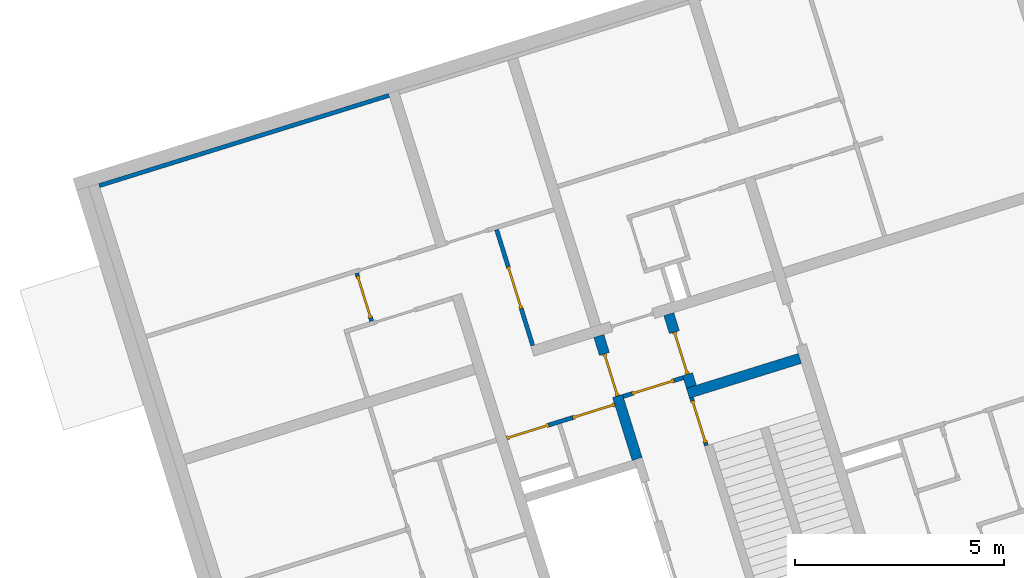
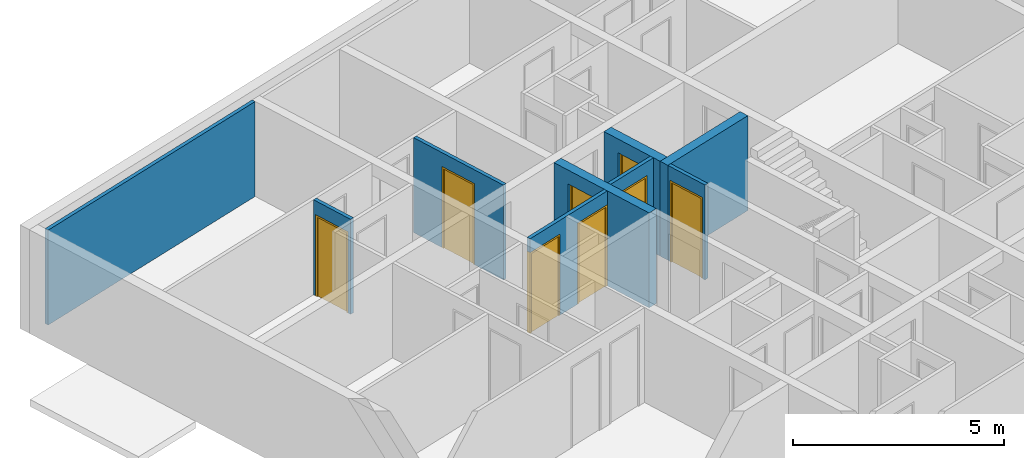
# One storey, part 5 of 9: 9 walls, 8 doors, 10 openings.
"""IFC4 building model written with IfcOpenShell, lengths in metres."""

import ifcopenshell
import ifcopenshell.guid

model = None  # the IFC model being written
_history = None  # IfcOwnerHistory: only IFC2X3 demands one
_inside = {}  # id of a spatial element -> (the spatial element, [elements in it])
_under = {}  # id of a project, library or spatial element -> (it, [spatial elements below it])
_declared = {}  # id of a project -> (the project, [libraries it declares])
_typed = {}  # id of a type object -> (the type object, [elements of that type])
_made_of = {}  # id of a material, layer set ... -> (it, [elements and type objects made of it])


def new_model(schema):
    """Start an empty IFC model of exactly this schema.

    Asked for "IFC4X3", IfcOpenShell would pick the latest addendum, in which some entities
    have other attributes; the version numbers below select the first issue.
    IFC2X3 requires an IfcOwnerHistory on every rooted entity: one is made here for all.
    """
    global model, _history
    if schema == "IFC4X3":
        model = ifcopenshell.file(schema_version=(4, 3, 0, 0))
    else:
        model = ifcopenshell.file(schema=schema)
    _inside.clear()
    _under.clear()
    _declared.clear()
    _typed.clear()
    _made_of.clear()
    _history = None
    if model.schema == "IFC2X3":
        org = make("IfcOrganization", Name="unknown")
        user = make(
            "IfcPersonAndOrganization",
            ThePerson=make("IfcPerson", FamilyName="unknown"),
            TheOrganization=org,
        )
        app = make(
            "IfcApplication",
            ApplicationDeveloper=org,
            Version="unknown",
            ApplicationFullName="unknown",
            ApplicationIdentifier="unknown",
        )
        _history = make(
            "IfcOwnerHistory",
            OwningUser=user,
            OwningApplication=app,
            ChangeAction="ADDED",
            CreationDate=0,
        )
    return model


def make(cls, **values):
    """One entity of the class cls with the attributes given. An attribute that is None is left unset."""
    return model.create_entity(
        cls, **{name: value for name, value in values.items() if value is not None}
    )


def entity(cls, *values):
    """Any entity or typed value of the class cls, its attributes in the order of the schema. None: left unset."""
    e = model.create_entity(cls)
    for i, value in enumerate(values):
        if value is not None:
            e[i] = value
    return e


def rooted(cls, **values):
    """An entity with a GlobalId (a new one), such as an element, a storey or a relation."""
    return make(cls, GlobalId=ifcopenshell.guid.new(), OwnerHistory=_history, **values)


def si_unit(unit_type, name, prefix=None):
    """IfcSIUnit, for example si_unit("LENGTHUNIT", "METRE", prefix="MILLI")."""
    return make("IfcSIUnit", UnitType=unit_type, Prefix=prefix, Name=name)


def converted_unit(unit_type, name, factor, base, dimensions=None, offset=None):
    """IfcConversionBasedUnit, such as the inch: factor (a typed value) times the base unit."""
    return make(
        "IfcConversionBasedUnit"
        if offset is None
        else "IfcConversionBasedUnitWithOffset",
        ConversionOffset=offset,
        Dimensions=None
        if dimensions is None
        else entity("IfcDimensionalExponents", *dimensions),
        UnitType=unit_type,
        Name=name,
        ConversionFactor=make(
            "IfcMeasureWithUnit", ValueComponent=factor, UnitComponent=base
        ),
    )


def assignment(units):
    """IfcUnitAssignment: the units of a project."""
    return None if units is None else make("IfcUnitAssignment", Units=units)


def point(xyz):
    """IfcCartesianPoint."""
    return None if xyz is None else make("IfcCartesianPoint", Coordinates=xyz)


def direction(xyz):
    """IfcDirection."""
    return None if xyz is None else make("IfcDirection", DirectionRatios=xyz)


def frame(location, z_axis=None, x_axis=None):
    """IfcAxis2Placement3D, a coordinate frame: its origin and axes. An axis left out is left unset."""
    return make(
        "IfcAxis2Placement3D",
        Location=point(location),
        Axis=direction(z_axis),
        RefDirection=direction(x_axis),
    )


def origin():
    """The frame at (0, 0, 0) with its axes left unset."""
    return frame((0.0, 0.0, 0.0))


def place(relative_to, where):
    """IfcLocalPlacement: puts the frame where relative to a parent placement (None: the world)."""
    return make(
        "IfcLocalPlacement", PlacementRelTo=relative_to, RelativePlacement=where
    )


def context(
    kind, dimensions, precision=None, world=None, true_north=None, identifier=None
):
    """IfcGeometricRepresentationContext, for example the 3D "Model" context."""
    return make(
        "IfcGeometricRepresentationContext",
        ContextIdentifier=identifier,
        ContextType=kind,
        CoordinateSpaceDimension=dimensions,
        Precision=precision,
        WorldCoordinateSystem=world,
        TrueNorth=true_north,
    )


def subcontext(parent, identifier, kind, view, scale=None):
    """IfcGeometricRepresentationSubContext, for example "Body" below "Model"."""
    return make(
        "IfcGeometricRepresentationSubContext",
        ContextIdentifier=identifier,
        ContextType=kind,
        ParentContext=parent,
        TargetScale=scale,
        TargetView=view,
    )


def project(units=None, contexts=None):
    """IfcProject with its units and contexts."""
    return rooted(
        "IfcProject",
        Name="project",
        RepresentationContexts=contexts,
        UnitsInContext=assignment(units),
    )


def spatial(cls, under=None, at=None, **own):
    """A site, building, storey or space (cls), placed at a placement, below another one or the project."""
    s = rooted(cls, ObjectPlacement=at, **own)
    if under is not None:
        _under.setdefault(under.id(), (under, []))[1].append(s)
    return s


def point_list(points):
    """IfcCartesianPointList2D or 3D."""
    cls = (
        "IfcCartesianPointList2D" if len(points[0]) == 2 else "IfcCartesianPointList3D"
    )
    return make(cls, CoordList=points)


def indexed_curve(points, segments=None, self_intersect=None):
    """IfcIndexedPolyCurve: lines and arcs through numbered points (the first is 1)."""
    return make(
        "IfcIndexedPolyCurve",
        Points=point_list(points),
        Segments=segments,
        SelfIntersect=self_intersect,
    )


def outline(outer, holes=None, kind="AREA"):
    """IfcArbitraryClosedProfileDef: a profile drawn as a closed curve; with holes, ...WithVoids."""
    if holes is None:
        return make("IfcArbitraryClosedProfileDef", ProfileType=kind, OuterCurve=outer)
    return make(
        "IfcArbitraryProfileDefWithVoids",
        ProfileType=kind,
        OuterCurve=outer,
        InnerCurves=holes,
    )


def extrude(swept, where, along, depth):
    """IfcExtrudedAreaSolid: the profile swept, set in the frame where, extruded along a direction by depth."""
    return make(
        "IfcExtrudedAreaSolid",
        SweptArea=swept,
        Position=where,
        ExtrudedDirection=direction(along),
        Depth=depth,
    )


def polygons(points, faces, closed=None, point_numbers=None):
    """IfcPolygonalFaceSet: a face is its outer loop, then its inner loops; points numbered from 1."""
    made = []
    for loops in faces:
        if len(loops) == 1:
            made.append(make("IfcIndexedPolygonalFace", CoordIndex=loops[0]))
        else:
            made.append(
                make(
                    "IfcIndexedPolygonalFaceWithVoids",
                    CoordIndex=loops[0],
                    InnerCoordIndices=loops[1:],
                )
            )
    return make(
        "IfcPolygonalFaceSet",
        Coordinates=point_list(points),
        Closed=closed,
        Faces=made,
        PnIndex=point_numbers,
    )


def shape(context_of_items, identifier, shape_type, items):
    """IfcShapeRepresentation: the items that make up one representation, for example the "Body"."""
    return make(
        "IfcShapeRepresentation",
        ContextOfItems=context_of_items,
        RepresentationIdentifier=identifier,
        RepresentationType=shape_type,
        Items=items,
    )


def source(mapping_origin, context_of_items, identifier, shape_type, items):
    """IfcRepresentationMap: a shape defined once, which mapped items show again and again."""
    return make(
        "IfcRepresentationMap",
        MappingOrigin=mapping_origin,
        MappedRepresentation=shape(context_of_items, identifier, shape_type, items),
    )


def transform(
    local_origin,
    x_axis=None,
    y_axis=None,
    z_axis=None,
    scale=None,
    scale2=None,
    scale3=None,
    uniform=True,
):
    """IfcCartesianTransformationOperator3D, or its non-uniform kind. x_axis, y_axis, z_axis: its Axis1, 2, 3."""
    if uniform:
        return make(
            "IfcCartesianTransformationOperator3D",
            Axis1=direction(x_axis),
            Axis2=direction(y_axis),
            LocalOrigin=point(local_origin),
            Scale=scale,
            Axis3=direction(z_axis),
        )
    return make(
        "IfcCartesianTransformationOperator3DnonUniform",
        Axis1=direction(x_axis),
        Axis2=direction(y_axis),
        LocalOrigin=point(local_origin),
        Scale=scale,
        Axis3=direction(z_axis),
        Scale2=scale2,
        Scale3=scale3,
    )


def mapped(mapping_source, mapping_target):
    """IfcMappedItem: shows the shape of a source again, moved by a transform."""
    return make(
        "IfcMappedItem", MappingSource=mapping_source, MappingTarget=mapping_target
    )


def material(Name=None, Category=None):
    """IfcMaterial."""
    return make("IfcMaterial", Name=Name, Category=Category)


def constituent(of_material, Name=None, Category=None, fraction=None):
    """IfcMaterialConstituent: one of the materials an element consists of."""
    return make(
        "IfcMaterialConstituent",
        Name=Name,
        Material=of_material,
        Fraction=fraction,
        Category=Category,
    )


def constituent_set(constituents=None, Name=None):
    """IfcMaterialConstituentSet."""
    return make(
        "IfcMaterialConstituentSet", Name=Name, MaterialConstituents=constituents
    )


def made_of(thing, what):
    """Note that an element or type object is made of a material, layer set ...; save() writes the relation."""
    if what is not None:
        _made_of.setdefault(what.id(), (what, []))[1].append(thing)
    return thing


def type_object(cls, material=None, **own):
    """A type object (cls), such as IfcWallType, which elements share."""
    return made_of(rooted(cls, **own), material)


def type_shapes(of_type, sources):
    """Give a type object the sources (RepresentationMaps) that its elements show as mapped items."""
    of_type.RepresentationMaps = sources


def element(
    cls,
    number,
    at=None,
    inside=None,
    cuts=None,
    type_object=None,
    material=None,
    context=None,
    identifier="Body",
    shape_type=None,
    held_by="IfcProductDefinitionShape",
    body=None,
    shapes=None,
    **own,
):
    """One element of the class cls, such as IfcWall. Its Tag is "e" and its number.

    at: its placement. inside: the storey or other place that contains it. cuts: it is an
    opening in that element (IfcRelVoidsElement). A single representation is given by context,
    identifier, shape_type and body (its items); several are given by shapes. held_by: the class
    of the entity that holds the representations. save() writes the other relations.
    """
    e = rooted(cls, Tag="e%d" % number, ObjectPlacement=at, **own)
    if body is not None:
        shapes = [shape(context, identifier, shape_type, body)]
    if shapes is not None:
        e.Representation = make(held_by, Representations=shapes)
    if inside is not None:
        _inside.setdefault(inside.id(), (inside, []))[1].append(e)
    if cuts is not None:
        rooted(
            "IfcRelVoidsElement", RelatingBuildingElement=cuts, RelatedOpeningElement=e
        )
    if type_object is not None:
        _typed.setdefault(type_object.id(), (type_object, []))[1].append(e)
    return made_of(e, material)


def fill(opening, filler):
    """IfcRelFillsElement: the door or window that sits in an opening."""
    return rooted(
        "IfcRelFillsElement",
        RelatingOpeningElement=opening,
        RelatedBuildingElement=filler,
    )


def aggregate(whole, parts):
    """IfcRelAggregates: a whole, such as a stair, and the parts it consists of."""
    return rooted("IfcRelAggregates", RelatingObject=whole, RelatedObjects=parts)


def save(model, path):
    """Write the relations noted so far, then the file.

    IfcRelAggregates (storeys below a building ...), IfcRelContainedInSpatialStructure (elements
    in a storey), IfcRelDefinesByType, IfcRelAssociatesMaterial and IfcRelDeclares: one each for
    every whole, place, type object, material and project.
    """
    for whole, parts in _under.values():
        aggregate(whole, parts)
    for where, things in _inside.values():
        rooted(
            "IfcRelContainedInSpatialStructure",
            RelatedElements=things,
            RelatingStructure=where,
        )
    for kind, things in _typed.values():
        rooted("IfcRelDefinesByType", RelatedObjects=things, RelatingType=kind)
    for what, things in _made_of.values():
        rooted("IfcRelAssociatesMaterial", RelatedObjects=things, RelatingMaterial=what)
    for by, libraries in _declared.values():
        rooted("IfcRelDeclares", RelatingContext=by, RelatedDefinitions=libraries)
    model.write(path)


model = new_model("IFC4")

# Units and contexts
model_context = context("Model", 3, precision=1e-05, world=origin(), true_north=direction((6.12323399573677e-17, 1.0)))
body_context = subcontext(model_context, "Body", "Model", "MODEL_VIEW")
ifc_project = project(units=[si_unit("LENGTHUNIT", "METRE"), si_unit("AREAUNIT", "SQUARE_METRE"), si_unit("VOLUMEUNIT", "CUBIC_METRE"), converted_unit("PLANEANGLEUNIT", "DEGREE", entity("IfcPlaneAngleMeasure", 0.0174532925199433), si_unit("PLANEANGLEUNIT", "RADIAN"), dimensions=[0, 0, 0, 0, 0, 0, 0])], contexts=[model_context])

# Site, building, storey
site_placement = place(None, frame((13.1347999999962, 11.9886000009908, 0.0), z_axis=(0.0, 0.0, 1.0), x_axis=(0.954770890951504, 0.297342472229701, 0.0)))
site = spatial("IfcSite", under=ifc_project, at=site_placement, Name="Schiehaven", CompositionType="ELEMENT")
building_placement = place(site_placement, origin())
building = spatial("IfcBuilding", under=site, at=building_placement, Name="VORM huis", CompositionType="ELEMENT")
storey_placement = place(building_placement, frame((0.0, 0.0, 9.9)))
storey = spatial("IfcBuildingStorey", under=building, at=storey_placement, Name="03 derde verdieping", CompositionType="ELEMENT", Elevation=9.9)

# Walls
ifc_material_1 = material(Name="ntb_ntb_ntb", Category="Miscellaneous")
wall_type_1 = type_object("IfcWallType", Name="Basic Wall:21_WA_gevel_binnenspouwwand 100mm_gen", PredefinedType="STANDARD")
wall_1_placement = place(storey_placement, frame((5.12500000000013, 29.0500000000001, 0.0)))
element("IfcWall", 1, at=wall_1_placement, inside=storey, type_object=wall_type_1, material=ifc_material_1, Name="Binnenspouwblad", ObjectType="Wand", PredefinedType="NOTDEFINED", context=body_context, shape_type="SweptSolid", body=[
    extrude(outline(indexed_curve([(7.24999999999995, 0.0500000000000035), (-1.62265042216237e-16, 0.0500000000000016), (1.62265042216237e-16, -0.0500000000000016), (7.24999999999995, -0.0499999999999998), (7.24999999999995, 0.0500000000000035)], self_intersect=False)), origin(), (0.0, 0.0, 1.0), 2.75),
])
wall_type_2 = type_object("IfcWallType", Name="Basic Wall:22_WA_afbouw_binnenwand 250mm_gen", PredefinedType="STANDARD")
wall_2_placement = place(storey_placement, frame((19.8750000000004, 20.1349999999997, 0.0), z_axis=(0.0, 0.0, 1.0), x_axis=(-1.0, 0.0, 0.0)))
element("IfcWall", 2, at=wall_2_placement, inside=storey, type_object=wall_type_2, material=ifc_material_1, Name="Binnenwand", ObjectType="Wand", PredefinedType="NOTDEFINED", context=body_context, shape_type="SweptSolid", body=[
    extrude(outline(indexed_curve([(2.80000000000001, 0.125000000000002), (2.21820971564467e-15, 0.125000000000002), (2.1132588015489e-15, -0.125000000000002), (2.80000000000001, -0.125000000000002), (2.80000000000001, 0.125000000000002)], self_intersect=False)), origin(), (0.0, 0.0, 1.0), 2.75),
])

# Wall, opening, door
wall_3_placement = place(storey_placement, frame((17.2000000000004, 20.2599999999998, 0.0), z_axis=(0.0, 0.0, 1.0), x_axis=(0.0, 1.0, 0.0)))
wall_3 = element("IfcWall", 3, at=wall_3_placement, inside=storey, type_object=wall_type_2, material=ifc_material_1, Name="Binnenwand", ObjectType="Wand", PredefinedType="NOTDEFINED", context=body_context, shape_type="Tessellation", body=[
    polygons([(0.0, -0.124999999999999, -2.16573425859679e-15), (0.315000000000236, -0.124999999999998, -2.16573425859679e-15), (0.315000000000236, -0.124999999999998, 2.34999999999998), (1.36500000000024, -0.124999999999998, 2.34999999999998), (1.36500000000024, -0.124999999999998, -2.16573425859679e-15), (1.81500000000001, -0.124999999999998, -2.16573425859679e-15), (1.81500000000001, -0.124999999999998, 2.75), (0.0, -0.124999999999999, 2.75), (0.315000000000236, 0.125000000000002, 2.34999999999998), (0.315000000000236, 0.125000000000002, -2.16573425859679e-15), (0.215000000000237, 0.125000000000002, -2.16573425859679e-15), (0.0, 0.125, -2.16573425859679e-15), (0.0, 0.125, 2.75), (0.215000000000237, 0.125000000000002, 2.75), (0.315000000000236, 0.125000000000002, 2.75), (1.81500000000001, 0.124999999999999, 2.75), (1.81500000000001, 0.124999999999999, -2.16573425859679e-15), (1.36500000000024, 0.125000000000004, -2.16573425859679e-15), (1.36500000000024, 0.125000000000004, 2.34999999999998)], [[[1, 2, 3, 4, 5, 6, 7, 8]], [[9, 10, 11, 12, 13, 14, 15, 16, 17, 18, 19]], [[12, 11, 10, 2, 1]], [[7, 6, 17, 16]], [[8, 7, 16, 15, 14, 13]], [[5, 4, 19, 18]], [[3, 2, 10, 9]], [[4, 3, 9, 19]], [[1, 8, 13, 12]], [[18, 17, 6, 5]]], closed=True),
])
opening_1_placement = place(wall_3_placement, frame((0.315000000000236, -0.125000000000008, 0.0)))
opening_1 = element("IfcOpeningElement", 4, at=opening_1_placement, cuts=wall_3, Name="Woningtoegangsdeur", PredefinedType="OPENING", context=body_context, shape_type="SweptSolid", body=[
    extrude(outline(indexed_curve([(2.34999999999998, 1.05), (0.0, 1.05), (0.0, 0.0), (2.34999999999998, 0.0), (2.34999999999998, 1.05)], self_intersect=False)), frame((0.0, 0.0, 0.0), z_axis=(0.0, 1.0, 0.0), x_axis=(0.0, 0.0, 1.0)), (0.0, 0.0, 1.0), 0.25),
])
ifc_material_2 = material(Name="PD_a_binnenwandopeningen", Category="Miscellaneous")
ifc_constituent_1 = constituent(ifc_material_2, Name="PD_a_binnenwandopeningen", Category="Miscellaneous")
ifc_material_3 = material(Name="metaal_aluminium_ntb", Category="Miscellaneous")
ifc_constituent_2 = constituent(ifc_material_3, Name="metaal_aluminium_ntb", Category="Miscellaneous")
ifc_constituent_set_1 = constituent_set(constituents=[ifc_constituent_1, ifc_constituent_2])
door_type_1 = type_object("IfcDoorType", Name="32_DO_binnendeur enkel:woningtoegangsdeur", OperationType="REVOLVING", PredefinedType="DOOR")
shared_shape_1 = source(origin(), body_context, "Body", "SweptSolid", [
    extrude(outline(indexed_curve([(-1.16249999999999, -0.525000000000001), (1.18749999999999, -0.525), (1.18749999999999, 0.525000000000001), (-1.16249999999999, 0.525000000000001), (-1.16249999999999, 0.475), (1.13749999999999, 0.475), (1.13749999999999, -0.475), (-1.16249999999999, -0.475), (-1.16249999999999, -0.525000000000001)], self_intersect=False)), frame((0.525000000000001, 0.0749999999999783, 1.16249999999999), z_axis=(0.0, 1.0, 0.0), x_axis=(0.0, 0.0, 1.0)), (0.0, 0.0, 1.0), 0.1),
    extrude(outline(indexed_curve([(-0.025, -0.475), (0.025, -0.475), (0.025, 0.475), (-0.025, 0.475), (-0.025, -0.475)], self_intersect=False)), frame((0.525000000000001, 0.12499999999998, 0.0), z_axis=(0.0, 0.0, 1.0), x_axis=(0.0, 1.0, 0.0)), (0.0, 0.0, 1.0), 2.29999999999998),
])
type_shapes(door_type_1, [shared_shape_1])
door_1_placement = place(opening_1_placement, origin())
door_1 = element("IfcDoor", 5, at=door_1_placement, inside=storey, type_object=door_type_1, material=ifc_constituent_set_1, Name="Woningtoegangsdeur", ObjectType="Deur", OperationType="REVOLVING", OverallHeight=2.34999999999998, OverallWidth=1.05, PredefinedType="DOOR", context=body_context, shape_type="MappedRepresentation", body=[
    mapped(shared_shape_1, transform((0.0, 0.0, 0.0), scale=1.0)),
])
fill(opening_1, door_1)

wall_4_placement = place(storey_placement, frame((15.4500000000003, 19.0, 0.0), z_axis=(0.0, 0.0, 1.0), x_axis=(0.0, 1.0, 0.0)))
wall_4 = element("IfcWall", 6, at=wall_4_placement, inside=storey, type_object=wall_type_2, material=ifc_material_1, Name="Binnenwand", ObjectType="Wand", PredefinedType="NOTDEFINED", context=body_context, shape_type="Tessellation", body=[
    polygons([(2.62500000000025, -0.124999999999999, 2.34999999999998), (2.62500000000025, -0.124999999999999, -2.16573425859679e-15), (3.075, -0.124999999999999, -2.16573425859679e-15), (3.075, -0.124999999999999, 2.75), (1.57500000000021, -0.124999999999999, 2.75), (1.47500000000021, -0.124999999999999, 2.75), (4.33146851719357e-15, -0.125, 2.75), (4.33146851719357e-15, -0.125, -2.16573425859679e-15), (1.47500000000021, -0.124999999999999, -2.16573425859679e-15), (1.57500000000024, -0.124999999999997, -2.16573425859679e-15), (1.57500000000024, -0.124999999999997, 2.34999999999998), (3.075, 0.125, -2.16573425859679e-15), (2.62500000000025, 0.125000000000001, -2.16573425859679e-15), (2.62500000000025, 0.125000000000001, 2.34999999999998), (1.57500000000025, 0.125000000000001, 2.34999999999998), (1.57500000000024, 0.125000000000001, -2.16573425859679e-15), (0.0, 0.125, -2.16573425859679e-15), (0.0, 0.125, 2.75), (3.075, 0.125, 2.75)], [[[1, 2, 3, 4, 5, 6, 7, 8, 9, 10, 11]], [[12, 13, 14, 15, 16, 17, 18, 19]], [[10, 9, 8, 17, 16]], [[4, 3, 12, 19]], [[7, 6, 5, 4, 19, 18]], [[8, 7, 18, 17]], [[16, 15, 11, 10]], [[14, 13, 2, 1]], [[15, 14, 1, 11]], [[3, 2, 13, 12]]], closed=True),
])
opening_2_placement = place(wall_4_placement, frame((2.62500000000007, 0.124999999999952, 0.0)))
opening_2 = element("IfcOpeningElement", 7, at=opening_2_placement, cuts=wall_4, Name="Woningtoegangsdeur", PredefinedType="OPENING", context=body_context, shape_type="SweptSolid", body=[
    extrude(outline(indexed_curve([(2.34999999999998, 1.05), (0.0, 1.05), (0.0, -4.02144990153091e-29), (2.34999999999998, -4.02144990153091e-29), (2.34999999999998, 1.05)], self_intersect=False)), frame((0.0, 0.0, 0.0), z_axis=(0.0, -1.0, 0.0), x_axis=(0.0, 0.0, 1.0)), (0.0, 0.0, 1.0), 0.25),
])
ifc_constituent_3 = constituent(ifc_material_2, Name="PD_a_binnenwandopeningen", Category="Miscellaneous")
ifc_constituent_4 = constituent(ifc_material_3, Name="metaal_aluminium_ntb", Category="Miscellaneous")
ifc_constituent_set_2 = constituent_set(constituents=[ifc_constituent_3, ifc_constituent_4])
door_2_placement = place(opening_2_placement, frame((0.0, 0.0, 0.0), z_axis=(0.0, 0.0, 1.0), x_axis=(-1.0, 0.0, 0.0)))
door_2 = element("IfcDoor", 8, at=door_2_placement, inside=storey, type_object=door_type_1, material=ifc_constituent_set_2, Name="Woningtoegangsdeur", ObjectType="Deur", OperationType="REVOLVING", OverallHeight=2.34999999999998, OverallWidth=1.05, PredefinedType="DOOR", context=body_context, shape_type="MappedRepresentation", body=[
    mapped(shared_shape_1, transform((0.0, 0.0, 0.0), scale=1.0)),
])
fill(opening_2, door_2)

wall_type_3 = type_object("IfcWallType", Name="Basic Wall:22_WA_afbouw_binnenwand 100mm_gen", PredefinedType="STANDARD")
wall_5_placement = place(storey_placement, frame((17.1250000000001, 20.0099999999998, 0.0), z_axis=(0.0, 0.0, 1.0), x_axis=(0.0, -1.0, 0.0)))
wall_5 = element("IfcWall", 9, at=wall_5_placement, inside=storey, type_object=wall_type_3, material=ifc_material_1, Name="Binnenwand", ObjectType="Wand", PredefinedType="NOTDEFINED", context=body_context, shape_type="Tessellation", body=[
    polygons([(1.19999999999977, -0.050000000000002, -2.16573425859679e-15), (1.19999999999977, -0.050000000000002, 2.75), (0.0, -0.0500000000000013, 2.75), (0.0, -0.0500000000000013, -2.16573425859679e-15), (0.074999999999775, -0.0500000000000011, -2.16573425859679e-15), (0.074999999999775, -0.0500000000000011, 2.34999999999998), (1.12499999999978, -0.0500000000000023, 2.34999999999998), (1.12499999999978, -0.0500000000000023, -2.16573425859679e-15), (1.19999999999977, 0.0499999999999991, 2.75), (1.19999999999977, 0.0499999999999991, -2.16573425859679e-15), (1.12499999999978, 0.0499999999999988, -2.16573425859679e-15), (1.12499999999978, 0.0499999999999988, 2.34999999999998), (0.074999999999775, 0.0499999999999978, 2.34999999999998), (0.074999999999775, 0.0499999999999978, -2.16573425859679e-15), (0.0, 0.0499999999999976, -2.16573425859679e-15), (0.0, 0.0499999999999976, 2.75)], [[[1, 2, 3, 4, 5, 6, 7, 8]], [[9, 10, 11, 12, 13, 14, 15, 16]], [[4, 15, 14, 5]], [[2, 1, 10, 9]], [[3, 2, 9, 16]], [[13, 6, 5, 14]], [[6, 13, 12, 7]], [[7, 12, 11, 8]], [[4, 3, 16, 15]], [[10, 1, 8, 11]]], closed=True),
])
opening_3_placement = place(wall_5_placement, frame((0.074999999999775, -0.0500000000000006, 0.0)))
opening_3 = element("IfcOpeningElement", 10, at=opening_3_placement, cuts=wall_5, Name="Vluchtdeur", PredefinedType="OPENING", context=body_context, shape_type="SweptSolid", body=[
    extrude(outline(indexed_curve([(2.34999999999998, 1.05), (0.0, 1.05), (0.0, -3.51974282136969e-30), (2.34999999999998, -3.51974282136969e-30), (2.34999999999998, 1.05)], self_intersect=False)), frame((0.0, 0.0, 0.0), z_axis=(0.0, 1.0, 0.0), x_axis=(0.0, 0.0, 1.0)), (0.0, 0.0, 1.0), 0.1),
])
ifc_constituent_5 = constituent(ifc_material_2, Name="PD_a_binnenwandopeningen", Category="Miscellaneous")
ifc_constituent_6 = constituent(ifc_material_3, Name="metaal_aluminium_ntb", Category="Miscellaneous")
ifc_constituent_set_3 = constituent_set(constituents=[ifc_constituent_5, ifc_constituent_6])
door_type_2 = type_object("IfcDoorType", Name="32_DO_binnendeur enkel:binnendeur zelfsluitend 30min", OperationType="NOTDEFINED", PredefinedType="DOOR")
shared_shape_2 = source(origin(), body_context, "Body", "SweptSolid", [
    extrude(outline(indexed_curve([(-1.16249999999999, -0.525000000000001), (1.18749999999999, -0.525), (1.18749999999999, 0.525), (-1.16249999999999, 0.525), (-1.16249999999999, 0.475), (1.13749999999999, 0.475), (1.13749999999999, -0.475), (-1.16249999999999, -0.475), (-1.16249999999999, -0.525000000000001)], self_intersect=False)), frame((0.525000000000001, 0.0, 1.16249999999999), z_axis=(0.0, 1.0, 0.0), x_axis=(0.0, 0.0, 1.0)), (0.0, 0.0, 1.0), 0.1),
    extrude(outline(indexed_curve([(-0.025, -0.475), (0.025, -0.475), (0.025, 0.475), (-0.025, 0.475), (-0.025, -0.475)], self_intersect=False)), frame((0.525000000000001, 0.0499999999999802, 0.0), z_axis=(0.0, 0.0, 1.0), x_axis=(0.0, 1.0, 0.0)), (0.0, 0.0, 1.0), 2.29999999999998),
])
type_shapes(door_type_2, [shared_shape_2])
door_3_placement = place(opening_3_placement, origin())
door_3 = element("IfcDoor", 11, at=door_3_placement, inside=storey, type_object=door_type_2, material=ifc_constituent_set_3, Name="Vluchtdeur", ObjectType="Deur", OperationType="NOTDEFINED", OverallHeight=2.34999999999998, OverallWidth=1.05, PredefinedType="DOOR", context=body_context, shape_type="MappedRepresentation", body=[
    mapped(shared_shape_2, transform((0.0, 0.0, 0.0), scale=1.0)),
])
fill(opening_3, door_3)

wall_6_placement = place(storey_placement, frame((17.0750000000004, 20.525, 0.0), z_axis=(0.0, 0.0, 1.0), x_axis=(-1.0, 0.0, 0.0)))
wall_6 = element("IfcWall", 12, at=wall_6_placement, inside=storey, type_object=wall_type_3, material=ifc_material_1, Name="Binnenwand", ObjectType="Wand", PredefinedType="NOTDEFINED", context=body_context, shape_type="Tessellation", body=[
    polygons([(1.50000000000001, -0.0499999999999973, 2.75), (7.85851977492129e-16, -0.0499999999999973, 2.75), (7.85851977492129e-16, -0.0499999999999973, 2.34999999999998), (7.85851977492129e-16, -0.0499999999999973, -2.16573425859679e-15), (0.22500000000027, -0.0499999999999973, -2.16573425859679e-15), (0.225000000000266, -0.0499999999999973, 2.34999999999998), (1.27500000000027, -0.0499999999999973, 2.34999999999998), (1.27500000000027, -0.0499999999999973, -2.16573425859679e-15), (1.50000000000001, -0.0499999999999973, -2.16573425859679e-15), (1.5, -0.0499999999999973, 2.34999999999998), (3.01092306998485e-15, 0.0500000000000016, 2.75), (1.50000000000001, 0.0500000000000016, 2.75), (1.50000000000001, 0.0500000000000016, -2.16573425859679e-15), (1.27500000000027, 0.0500000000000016, -2.16573425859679e-15), (1.27500000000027, 0.0500000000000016, 2.34999999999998), (0.225000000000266, 0.0500000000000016, 2.34999999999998), (0.22500000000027, 0.0500000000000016, -2.16573425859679e-15), (3.01092306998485e-15, 0.0500000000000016, -2.16573425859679e-15)], [[[1, 2, 3, 4, 5, 6, 7, 8, 9, 10]], [[11, 12, 13, 14, 15, 16, 17, 18]], [[4, 18, 17, 5]], [[2, 1, 12, 11]], [[16, 6, 5, 17]], [[6, 16, 15, 7]], [[7, 15, 14, 8]], [[1, 10, 9, 13, 12]], [[4, 3, 2, 11, 18]], [[13, 9, 8, 14]]], closed=True),
])
opening_4_placement = place(wall_6_placement, frame((0.225000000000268, -0.0500000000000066, 0.0)))
opening_4 = element("IfcOpeningElement", 13, at=opening_4_placement, cuts=wall_6, Name="Vluchtdeur", PredefinedType="OPENING", context=body_context, shape_type="SweptSolid", body=[
    extrude(outline(indexed_curve([(2.34999999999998, 1.05), (0.0, 1.05), (0.0, 1.35358391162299e-15), (2.34999999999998, 1.35358391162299e-15), (2.34999999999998, 1.05)], self_intersect=False)), frame((0.0, 0.0, 0.0), z_axis=(0.0, 1.0, 0.0), x_axis=(0.0, 0.0, 1.0)), (0.0, 0.0, 1.0), 0.1),
])
ifc_constituent_7 = constituent(ifc_material_2, Name="PD_a_binnenwandopeningen", Category="Miscellaneous")
ifc_constituent_8 = constituent(ifc_material_3, Name="metaal_aluminium_ntb", Category="Miscellaneous")
ifc_constituent_set_4 = constituent_set(constituents=[ifc_constituent_7, ifc_constituent_8])
door_4_placement = place(opening_4_placement, origin())
door_4 = element("IfcDoor", 14, at=door_4_placement, inside=storey, type_object=door_type_2, material=ifc_constituent_set_4, Name="Vluchtdeur", ObjectType="Deur", OperationType="NOTDEFINED", OverallHeight=2.34999999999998, OverallWidth=1.05, PredefinedType="DOOR", context=body_context, shape_type="MappedRepresentation", body=[
    mapped(shared_shape_2, transform((0.0, 0.0, 0.0), scale=1.0)),
])
fill(opening_4, door_4)

# Wall, openings, door
wall_7_placement = place(storey_placement, frame((10.3750000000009, 24.0250000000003, 0.0), z_axis=(0.0, 0.0, 1.0), x_axis=(0.0, 1.0, 0.0)))
wall_7 = element("IfcWall", 15, at=wall_7_placement, inside=storey, type_object=wall_type_3, material=ifc_material_1, Name="Binnenwand", ObjectType="Wand", PredefinedType="NOTDEFINED", context=body_context, shape_type="Tessellation", body=[
    polygons([(1.19999999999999, -0.0499999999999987, 2.75), (0.0, -0.0500000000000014, 2.75), (0.0, -0.0499999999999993, 2.34999999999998), (0.0, -0.0500000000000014, 0.0), (0.0799999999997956, -0.0500000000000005, 0.0), (0.0799999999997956, -0.0500000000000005, 2.34999999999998), (1.1299999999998, -0.0499999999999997, 2.34999999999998), (1.1299999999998, -0.0499999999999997, 0.0), (1.19999999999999, -0.0499999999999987, 0.0), (1.19999999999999, -0.0500000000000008, 2.34999999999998), (0.0, 0.0499999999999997, 2.75), (1.19999999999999, 0.0499999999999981, 2.75), (1.19999999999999, 0.0499999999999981, 0.0), (1.1299999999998, 0.0499999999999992, 0.0), (1.1299999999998, 0.0499999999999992, 2.34999999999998), (0.0799999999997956, 0.0499999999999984, 2.34999999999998), (0.0799999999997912, 0.0499999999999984, 0.0), (0.0, 0.0499999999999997, 0.0)], [[[1, 2, 3, 4, 5, 6, 7, 8, 9, 10]], [[11, 12, 13, 14, 15, 16, 17, 18]], [[4, 18, 17, 5]], [[2, 1, 12, 11]], [[1, 10, 9, 13, 12]], [[4, 3, 2, 11, 18]], [[7, 15, 14, 8]], [[15, 7, 6, 16]], [[16, 6, 5, 17]], [[13, 9, 8, 14]]], closed=True),
])
opening_5_placement = place(wall_7_placement, frame((1.1299999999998, 0.0500000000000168, 0.0)))
opening_5 = element("IfcOpeningElement", 16, at=opening_5_placement, cuts=wall_7, Name="Binnendeur", PredefinedType="OPENING", context=body_context, shape_type="SweptSolid", body=[
    extrude(outline(indexed_curve([(2.34999999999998, 0.0), (2.34999999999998, 1.05), (0.0, 1.05), (0.0, 0.0), (2.34999999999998, 0.0)], self_intersect=False)), frame((0.0, 0.0, 0.0), z_axis=(0.0, -1.0, 0.0), x_axis=(0.0, 0.0, 1.0)), (0.0, 0.0, 1.0), 0.1),
])
opening_6_placement = place(wall_7_placement, frame((-24.0250000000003, 10.3750000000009, 0.0), z_axis=(0.0, 0.0, 1.0), x_axis=(0.0, -1.0, 0.0)))
element("IfcOpeningElement", 17, at=opening_6_placement, cuts=wall_7, Name="Binnendeur", PredefinedType="OPENING", context=body_context, shape_type="SweptSolid", body=[
    extrude(outline(indexed_curve([(-1.17499999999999, -0.524999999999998), (1.17499999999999, -0.525000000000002), (1.17499999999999, 0.525000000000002), (-1.17499999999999, 0.525000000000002), (-1.17499999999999, -0.524999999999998)], self_intersect=False)), frame((11.8490000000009, 24.6300000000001, 1.17499999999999), z_axis=(-1.0, 0.0, 0.0), x_axis=(0.0, 0.0, -1.0)), (0.0, 0.0, 1.0), 3.048),
])
ifc_constituent_9 = constituent(ifc_material_2, Name="PD_a_binnenwandopeningen", Category="Miscellaneous")
ifc_constituent_10 = constituent(ifc_material_3, Name="metaal_aluminium_ntb", Category="Miscellaneous")
ifc_constituent_set_5 = constituent_set(constituents=[ifc_constituent_9, ifc_constituent_10])
door_type_3 = type_object("IfcDoorType", Name="32_DO_binnendeur enkel:binnendeur", OperationType="REVOLVING", PredefinedType="DOOR")
shared_shape_3 = source(origin(), body_context, "Body", "SweptSolid", [
    extrude(outline(indexed_curve([(0.475, -1.16249999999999), (0.525, -1.16249999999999), (0.525, 1.18749999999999), (-0.525, 1.18749999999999), (-0.525, -1.16249999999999), (-0.475, -1.16249999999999), (-0.475, 1.13749999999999), (0.475, 1.13749999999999), (0.475, -1.16249999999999)], self_intersect=False)), frame((0.525000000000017, 0.100000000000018, 1.16249999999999), z_axis=(0.0, -1.0, 0.0), x_axis=(1.0, 0.0, 0.0)), (0.0, 0.0, 1.0), 0.1),
    extrude(outline(indexed_curve([(-0.475, -0.025), (0.475, -0.025), (0.475, 0.025), (-0.475, 0.025), (-0.475, -0.025)], self_intersect=False)), frame((0.525000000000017, 0.0499999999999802, 0.0)), (0.0, 0.0, 1.0), 2.29999999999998),
])
door_5_placement = place(opening_5_placement, frame((0.0, 0.0, 0.0), z_axis=(0.0, 0.0, 1.0), x_axis=(-1.0, 0.0, 0.0)))
door_5 = element("IfcDoor", 18, at=door_5_placement, inside=storey, type_object=door_type_3, material=ifc_constituent_set_5, Name="Binnendeur", ObjectType="Deur", OperationType="REVOLVING", OverallHeight=2.34999999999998, OverallWidth=1.05, PredefinedType="DOOR", context=body_context, shape_type="MappedRepresentation", body=[
    mapped(shared_shape_3, transform((0.0, 0.0, 0.0), scale=1.0)),
])
fill(opening_5, door_5)

# Wall, openings, doors
wall_8_placement = place(storey_placement, frame((12.6250000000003, 20.4, 0.0)))
wall_8 = element("IfcWall", 19, at=wall_8_placement, inside=storey, type_object=wall_type_3, material=ifc_material_1, Name="Binnenwand", ObjectType="Wand", PredefinedType="NOTDEFINED", context=body_context, shape_type="Tessellation", body=[
    polygons([(2.70000000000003, -0.0499999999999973, 2.75), (1.35000000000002, -0.0499999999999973, 2.75), (1.25000000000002, -0.0499999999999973, 2.75), (9.09406101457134e-16, -0.0499999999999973, 2.75), (9.09406101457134e-16, -0.0499999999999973, 2.34999999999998), (1.05000000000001, -0.0499999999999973, 2.34999999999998), (1.05000000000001, -0.0499999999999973, 0.0), (1.25000000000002, -0.0499999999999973, 0.0), (1.35000000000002, -0.0499999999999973, 0.0), (1.65000000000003, -0.0499999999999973, 0.0), (1.65000000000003, -0.0499999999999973, 2.34999999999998), (2.70000000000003, -0.0499999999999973, 2.34999999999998), (1.89829959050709e-15, 0.0500000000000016, 2.75), (2.70000000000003, 0.0500000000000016, 2.75), (2.70000000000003, 0.0500000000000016, 2.34999999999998), (1.65000000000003, 0.0500000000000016, 2.34999999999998), (1.65000000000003, 0.0500000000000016, 0.0), (1.05000000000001, 0.0500000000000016, 0.0), (1.05000000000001, 0.0500000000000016, 2.34999999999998), (1.89829959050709e-15, 0.0500000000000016, 2.34999999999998)], [[[1, 2, 3, 4, 5, 6, 7, 8, 9, 10, 11, 12]], [[13, 14, 15, 16, 17, 18, 19, 20]], [[17, 10, 9, 8, 7, 18]], [[14, 1, 12, 15]], [[4, 3, 2, 1, 14, 13]], [[4, 13, 20, 5]], [[6, 19, 18, 7]], [[19, 6, 5, 20]], [[16, 11, 10, 17]], [[11, 16, 15, 12]]], closed=True),
])
opening_7_placement = place(wall_8_placement, frame((0.0, -0.050000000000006, 0.0)))
opening_7 = element("IfcOpeningElement", 20, at=opening_7_placement, cuts=wall_8, Name="Binnendeur", PredefinedType="OPENING", context=body_context, shape_type="SweptSolid", body=[
    extrude(outline(indexed_curve([(2.34999999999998, 1.05), (0.0, 1.05), (0.0, 1.35358391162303e-15), (2.34999999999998, 1.35358391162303e-15), (2.34999999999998, 1.05)], self_intersect=False)), frame((0.0, 0.0, 0.0), z_axis=(0.0, 1.0, 0.0), x_axis=(0.0, 0.0, 1.0)), (0.0, 0.0, 1.0), 0.1),
])
opening_8_placement = place(wall_8_placement, frame((-12.6250000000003, -20.4, 0.0)))
element("IfcOpeningElement", 21, at=opening_8_placement, cuts=wall_8, Name="Binnendeur", PredefinedType="OPENING", context=body_context, shape_type="SweptSolid", body=[
    extrude(outline(indexed_curve([(-1.17499999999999, -0.525000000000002), (1.17499999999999, -0.525), (1.17499999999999, 0.525), (-1.17499999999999, 0.525), (-1.17499999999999, -0.525000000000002)], self_intersect=False)), frame((13.1500000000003, 18.826, 1.17499999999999), z_axis=(0.0, 1.0, 0.0), x_axis=(0.0, 0.0, -1.0)), (0.0, 0.0, 1.0), 3.048),
])
opening_9_placement = place(wall_8_placement, frame((1.65000000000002, -0.0500000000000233, 0.0)))
opening_9 = element("IfcOpeningElement", 22, at=opening_9_placement, cuts=wall_8, Name="Binnendeur", PredefinedType="OPENING", context=body_context, shape_type="SweptSolid", body=[
    extrude(outline(indexed_curve([(2.34999999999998, 1.05), (0.0, 1.05), (0.0, 1.35358391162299e-15), (2.34999999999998, 1.35358391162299e-15), (2.34999999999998, 1.05)], self_intersect=False)), frame((0.0, 0.0, 0.0), z_axis=(0.0, 1.0, 0.0), x_axis=(0.0, 0.0, 1.0)), (0.0, 0.0, 1.0), 0.1),
])
ifc_constituent_11 = constituent(ifc_material_2, Name="PD_a_binnenwandopeningen", Category="Miscellaneous")
ifc_constituent_12 = constituent(ifc_material_3, Name="metaal_aluminium_ntb", Category="Miscellaneous")
ifc_constituent_set_6 = constituent_set(constituents=[ifc_constituent_11, ifc_constituent_12])
shared_shape_4 = source(origin(), body_context, "Body", "SweptSolid", [
    extrude(outline(indexed_curve([(-1.16249999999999, -0.525000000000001), (1.18749999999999, -0.525), (1.18749999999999, 0.525), (-1.16249999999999, 0.525), (-1.16249999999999, 0.475), (1.13749999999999, 0.475), (1.13749999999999, -0.475), (-1.16249999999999, -0.475), (-1.16249999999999, -0.525000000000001)], self_intersect=False)), frame((0.525000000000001, 0.0, 1.16249999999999), z_axis=(0.0, 1.0, 0.0), x_axis=(0.0, 0.0, 1.0)), (0.0, 0.0, 1.0), 0.1),
    extrude(outline(indexed_curve([(-0.025, -0.475), (0.025, -0.475), (0.025, 0.475), (-0.025, 0.475), (-0.025, -0.475)], self_intersect=False)), frame((0.525000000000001, 0.0499999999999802, 0.0), z_axis=(0.0, 0.0, 1.0), x_axis=(0.0, 1.0, 0.0)), (0.0, 0.0, 1.0), 2.29999999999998),
])
type_shapes(door_type_3, [shared_shape_4])
door_6_placement = place(opening_7_placement, origin())
door_6 = element("IfcDoor", 23, at=door_6_placement, inside=storey, type_object=door_type_3, material=ifc_constituent_set_6, Name="Binnendeur", ObjectType="Deur", OperationType="REVOLVING", OverallHeight=2.34999999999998, OverallWidth=1.05, PredefinedType="DOOR", context=body_context, shape_type="MappedRepresentation", body=[
    mapped(shared_shape_4, transform((0.0, 0.0, 0.0), scale=1.0)),
])
fill(opening_7, door_6)
ifc_constituent_13 = constituent(ifc_material_2, Name="PD_a_binnenwandopeningen", Category="Miscellaneous")
ifc_constituent_14 = constituent(ifc_material_3, Name="metaal_aluminium_ntb", Category="Miscellaneous")
ifc_constituent_set_7 = constituent_set(constituents=[ifc_constituent_13, ifc_constituent_14])
door_7_placement = place(opening_9_placement, origin())
door_7 = element("IfcDoor", 24, at=door_7_placement, inside=storey, type_object=door_type_3, material=ifc_constituent_set_7, Name="Binnendeur", ObjectType="Deur", OperationType="REVOLVING", OverallHeight=2.34999999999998, OverallWidth=1.05, PredefinedType="DOOR", context=body_context, shape_type="MappedRepresentation", body=[
    mapped(shared_shape_4, transform((0.0, 0.0, 0.0), scale=1.0)),
])
fill(opening_9, door_7)

# Wall, opening, door
wall_9_placement = place(storey_placement, frame((13.8750000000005, 22.3249999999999, 0.0), z_axis=(0.0, 0.0, 1.0), x_axis=(0.0, 1.0, 0.0)))
wall_9 = element("IfcWall", 25, at=wall_9_placement, inside=storey, type_object=wall_type_3, material=ifc_material_1, Name="Binnenwand", ObjectType="Wand", PredefinedType="NOTDEFINED", context=body_context, shape_type="Tessellation", body=[
    polygons([(0.0, -0.0499999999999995, 0.0), (0.925000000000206, -0.0499999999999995, 0.0), (0.925000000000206, -0.0499999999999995, 2.34999999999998), (1.97500000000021, -0.0499999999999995, 2.34999999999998), (1.97500000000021, -0.0499999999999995, 0.0), (2.90000000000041, -0.0499999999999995, 0.0), (2.90000000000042, -0.0499999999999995, 2.75), (0.0, -0.0499999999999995, 2.75), (0.925000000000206, 0.0500000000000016, 2.34999999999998), (0.925000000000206, 0.0500000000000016, 0.0), (0.0, 0.0500000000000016, 0.0), (0.0, 0.0500000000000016, 2.75), (2.90000000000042, 0.0500000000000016, 2.75), (2.90000000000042, 0.0500000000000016, 0.0), (1.97500000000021, 0.0500000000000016, 0.0), (1.97500000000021, 0.0500000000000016, 2.34999999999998)], [[[1, 2, 3, 4, 5, 6, 7, 8]], [[9, 10, 11, 12, 13, 14, 15, 16]], [[11, 10, 2, 1]], [[8, 7, 13, 12]], [[1, 8, 12, 11]], [[5, 4, 16, 15]], [[3, 2, 10, 9]], [[4, 3, 9, 16]], [[7, 6, 14, 13]], [[15, 14, 6, 5]]], closed=True),
])
opening_10_placement = place(wall_9_placement, frame((0.925000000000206, -0.0499999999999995, 0.0)))
opening_10 = element("IfcOpeningElement", 26, at=opening_10_placement, cuts=wall_9, Name="Binnendeur", PredefinedType="OPENING", context=body_context, shape_type="SweptSolid", body=[
    extrude(outline(indexed_curve([(2.34999999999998, 1.05), (0.0, 1.05), (0.0, 0.0), (2.34999999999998, 0.0), (2.34999999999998, 1.05)], self_intersect=False)), frame((0.0, 0.0, 0.0), z_axis=(0.0, 1.0, 0.0), x_axis=(0.0, 0.0, 1.0)), (0.0, 0.0, 1.0), 0.1),
])
ifc_constituent_15 = constituent(ifc_material_2, Name="PD_a_binnenwandopeningen", Category="Miscellaneous")
ifc_constituent_16 = constituent(ifc_material_3, Name="metaal_aluminium_ntb", Category="Miscellaneous")
ifc_constituent_set_8 = constituent_set(constituents=[ifc_constituent_15, ifc_constituent_16])
door_8_placement = place(opening_10_placement, origin())
door_8 = element("IfcDoor", 27, at=door_8_placement, inside=storey, type_object=door_type_3, material=ifc_constituent_set_8, Name="Binnendeur", ObjectType="Deur", OperationType="REVOLVING", OverallHeight=2.34999999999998, OverallWidth=1.05, PredefinedType="DOOR", context=body_context, shape_type="MappedRepresentation", body=[
    mapped(shared_shape_4, transform((0.0, 0.0, 0.0), scale=1.0)),
])
fill(opening_10, door_8)

save(model, "model.ifc")
